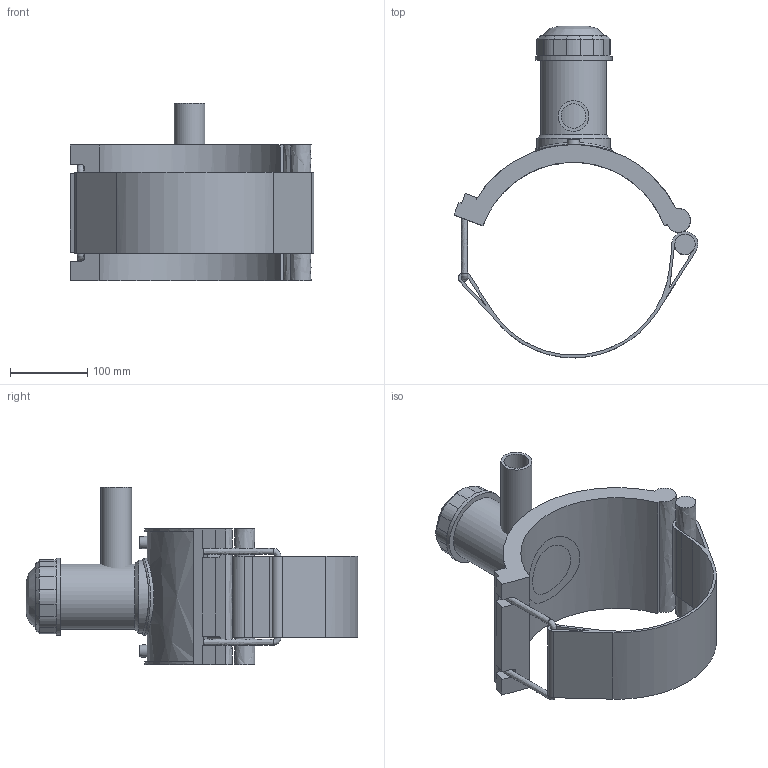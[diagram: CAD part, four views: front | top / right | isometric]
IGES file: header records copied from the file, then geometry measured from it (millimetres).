
Global section: file name: 4963P4250040; native system: Autodesk Inventor 2019; preprocessor: unknown; author: KIM; date: 20220317.113313; units: millimetre
Bounding box: 316.47 x 430.73 x 230 mm (x, y, z)
Volume: 2392043.4 mm3; surface area: 431705.8 mm2
Topology: 3 solids, 3 shells, 118 faces, 297 edges, 193 vertices
Faces by surface type: bspline 118
